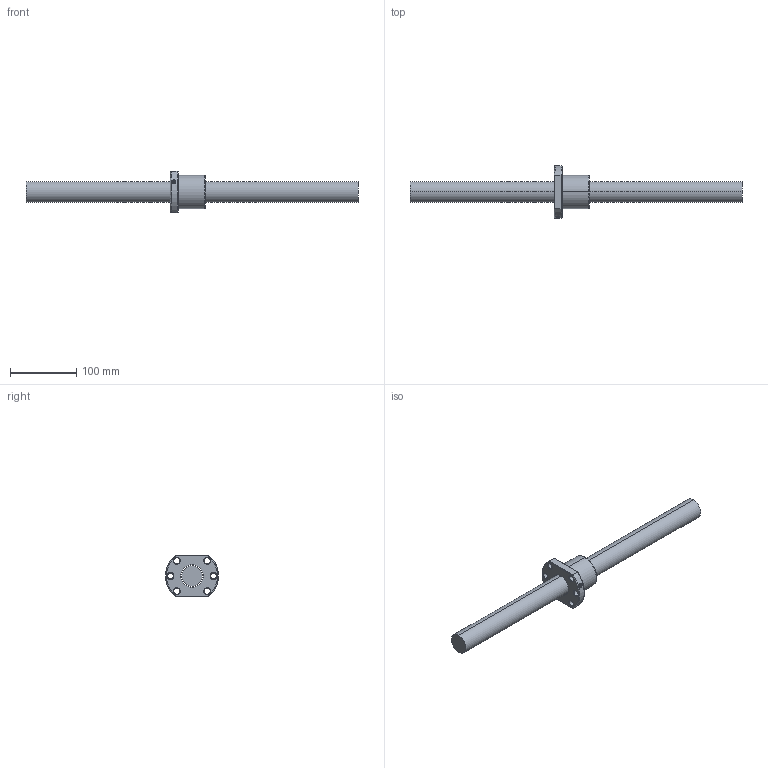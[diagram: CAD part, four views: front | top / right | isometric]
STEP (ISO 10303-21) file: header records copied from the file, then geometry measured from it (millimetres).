
FILE_DESCRIPTION (( 'STEP AP203' ), '1' );
FILE_NAME ('SFB3210-3.8.STEP', '2024-08-13T01:46:31', ( '' ), ( '' ), 'SwSTEP 2.0', 'SolidWorks 2022', '' );
FILE_SCHEMA (( 'CONFIG_CONTROL_DESIGN' ));
Length unit declared in the file: millimetre
Products named in the file (1): SFB3210-3.8
Bounding box: 500 x 79.74 x 62 mm (x, y, z)
Volume: 458147.3 mm3; surface area: 73228.3 mm2
Topology: 2 solids, 2 shells, 85 faces, 218 edges, 138 vertices
Faces by surface type: cylinder 35, cone 26, plane 12, bspline 6, torus 6
Entity records: 5522 total; most frequent: CARTESIAN_POINT 3443, ORIENTED_EDGE 436, DIRECTION 403, EDGE_CURVE 218, AXIS2_PLACEMENT_3D 164, VERTEX_POINT 138, EDGE_LOOP 102, ADVANCED_FACE 85
